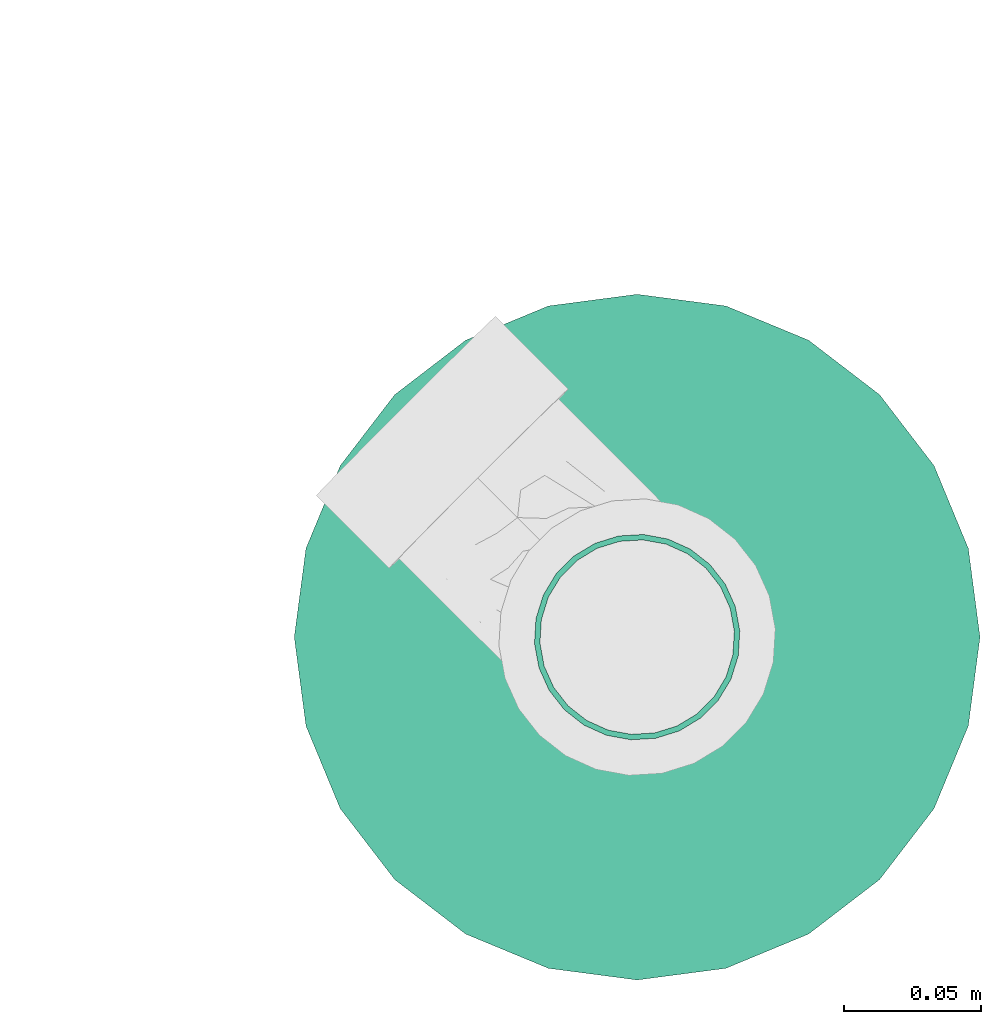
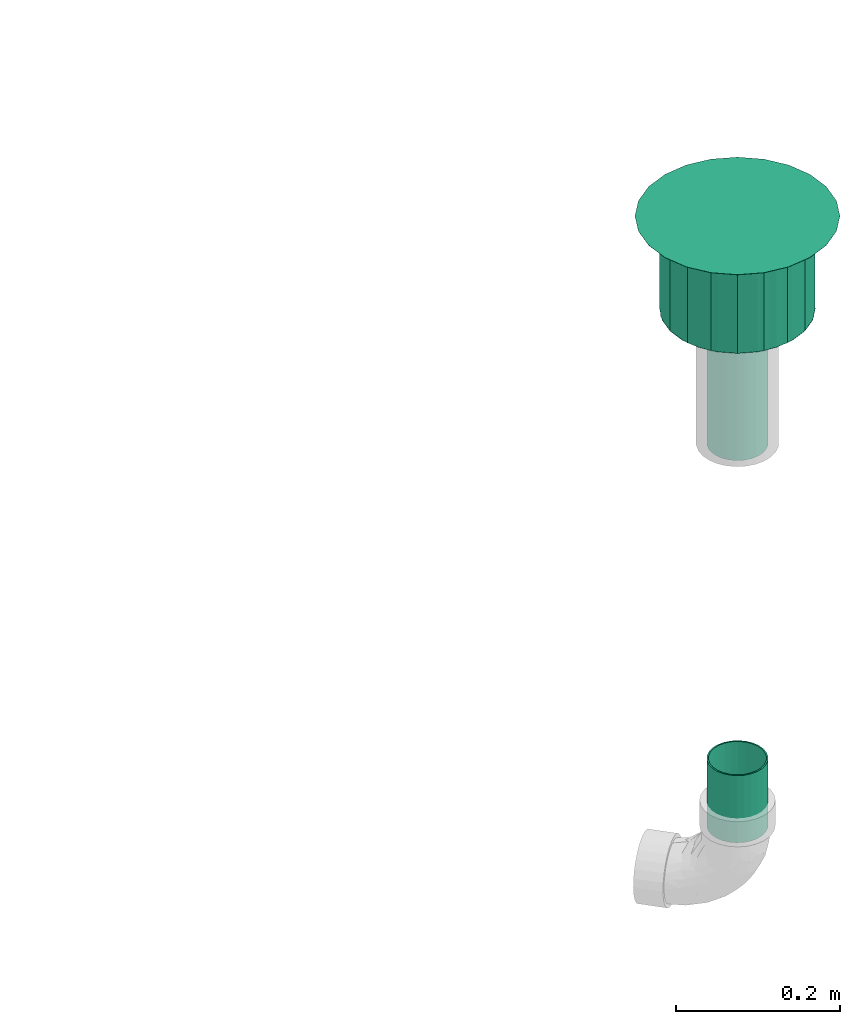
# One storey, part 63 of 108: 2 flow segments, 1 flow terminal.
"""IFC2X3 building model written with IfcOpenShell, lengths in millimetres."""

from ifc_helpers import new_model, entity, si_unit, converted_unit, derived_unit, direction, frame, origin_with_axes, origin_2d_with_axis, place, context, subcontext, project, spatial, hollow_circle, extrude, open_shell, surface_model, source, transform, mapped, type_object, element, save


model = new_model("IFC2X3")

# Units and contexts
model_context = context("Model", 3, precision=0.01, world=frame((0.0, 4.29681676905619e-09, 0.0)), true_north=direction((4.01073788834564e-13, 1.0)))
plan_context = context("Plan", 3, precision=0.01, world=frame((0.0, 4.29681676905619e-09, 0.0)), true_north=direction((4.01073788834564e-13, 1.0)))
body_context = subcontext(model_context, "Body", "Model", "MODEL_VIEW")
ifc_project = project(units=[converted_unit("PLANEANGLEUNIT", "DEGREE", entity("IfcPositiveLengthMeasure", 0.0174532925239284), si_unit("PLANEANGLEUNIT", "RADIAN"), dimensions=[0, 0, 0, 0, 0, 0, 0]), si_unit("AREAUNIT", "SQUARE_METRE"), si_unit("LENGTHUNIT", "METRE", prefix="MILLI"), si_unit("MASSUNIT", "GRAM", prefix="KILO"), si_unit("POWERUNIT", "WATT"), si_unit("PRESSUREUNIT", "PASCAL", prefix="KILO"), si_unit("FORCEUNIT", "NEWTON", prefix="KILO"), si_unit("ELECTRICVOLTAGEUNIT", "VOLT"), si_unit("ELECTRICCURRENTUNIT", "AMPERE"), si_unit("THERMODYNAMICTEMPERATUREUNIT", "DEGREE_CELSIUS"), si_unit("TIMEUNIT", "SECOND"), si_unit("VOLUMEUNIT", "CUBIC_METRE"), derived_unit("LINEARVELOCITYUNIT", [(si_unit("LENGTHUNIT", "METRE"), 1), (si_unit("TIMEUNIT", "SECOND"), -1)]), derived_unit("VOLUMETRICFLOWRATEUNIT", [(si_unit("VOLUMEUNIT", "CUBIC_METRE"), 1), (si_unit("TIMEUNIT", "SECOND"), -1)]), derived_unit("THERMALTRANSMITTANCEUNIT", [(si_unit("POWERUNIT", "WATT"), 1), (si_unit("THERMODYNAMICTEMPERATUREUNIT", "KELVIN"), -1), (si_unit("AREAUNIT", "SQUARE_METRE"), -1)]), derived_unit("SOUNDPRESSUREUNIT", [(si_unit("PRESSUREUNIT", "PASCAL"), 1)])], contexts=[model_context, plan_context])

# Site, building, storey
site_placement = place(None, frame((0.0, -4.29681676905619e-09, 0.0), z_axis=(0.0, 0.0, 1.0), x_axis=(1.0, 0.0, 0.0)))
site = spatial("IfcSite", under=ifc_project, at=site_placement, CompositionType="ELEMENT")
building_placement = place(site_placement, frame((0.0, 4.29681676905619e-09, 0.0), z_axis=(0.0, 0.0, 1.0), x_axis=(1.0, 0.0, 0.0)))
building = spatial("IfcBuilding", under=site, at=building_placement, Name="mc-building", CompositionType="ELEMENT")
storey_placement = place(building_placement, frame((0.0, 0.0, 210200.0), z_axis=(0.0, 0.0, 1.0), x_axis=(1.0, 0.0, 0.0)))
storey = spatial("IfcBuildingStorey", under=building, at=storey_placement, Name="Nivå F - 0,7 m", CompositionType="ELEMENT", Elevation=210200.0)

# Flow segments
pipe_segment_type = type_object("IfcPipeSegmentType", Name="MA", PredefinedType="RIGIDSEGMENT")
shared_shape_1 = source(origin_with_axes(), body_context, "Body", "SweptSolid", [
    extrude(hollow_circle(Radius=37.5, WallThickness=2.0, at=origin_2d_with_axis()), frame((0.0, 0.0, 0.0), z_axis=(1.0, 0.0, 0.0), x_axis=(0.0, 1.0, 0.0)), (0.0, 0.0, 1.0), 100.0),
])
flow_segment_1_placement = place(storey_placement, frame((348065.41099, 459653.24188, -797.06078), z_axis=(0.707106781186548, -0.707106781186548, 0.0), x_axis=(0.0, 0.0, -1.0)))
element("IfcFlowSegment", 1, at=flow_segment_1_placement, inside=storey, type_object=pipe_segment_type, Name="MA", context=body_context, shape_type="MappedRepresentation", body=[
    mapped(shared_shape_1, transform((0.0, 0.0, 0.0), scale=1.0)),
])
shared_shape_2 = source(origin_with_axes(), body_context, "Body", "SweptSolid", [
    extrude(hollow_circle(Radius=37.5, WallThickness=2.0, at=origin_2d_with_axis()), frame((0.0, 0.0, 0.0), z_axis=(1.0, 0.0, 0.0), x_axis=(0.0, 1.0, 0.0)), (0.0, 0.0, 1.0), 200.0),
])
flow_segment_2_placement = place(storey_placement, frame((348065.41099, 459653.24188, -128.0), z_axis=(0.707106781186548, -0.707106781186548, 0.0), x_axis=(0.0, 0.0, -1.0)))
element("IfcFlowSegment", 2, at=flow_segment_2_placement, inside=storey, type_object=pipe_segment_type, Name="MA", context=body_context, shape_type="MappedRepresentation", body=[
    mapped(shared_shape_2, transform((0.0, 0.0, 0.0), scale=1.0)),
])

# Flow terminal
waste_terminal_type = type_object("IfcWasteTerminalType", Name="B21", PredefinedType="NOTDEFINED")
shared_shape_3 = source(origin_with_axes(), body_context, "Body", "SurfaceModel", [
    surface_model("IfcShellBasedSurfaceModel", [(24.58781, -91.76295, 0.1), (47.5, -82.27241, 0.1), (67.17514, -67.17514, 0.1), (-91.76295, -24.58781, 0.1), (82.27241, -47.5, 0.1), (91.76295, -24.58781, 0.1), (95.0, 0.0, 0.1), (0.0, -95.0, 0.1), (-47.5, -82.27241, 0.1), (-24.58781, -91.76295, 0.1), (-67.17514, -67.17514, 0.1), (-82.27241, -47.5, 0.1), (-91.76295, 24.58781, 0.1), (91.76295, 24.58781, 0.1), (82.27241, 47.5, 0.1), (67.17514, 67.17514, 0.1), (47.5, 82.27241, 0.1), (24.58781, 91.76295, 0.1), (0.0, 95.0, 0.1), (-67.17514, 67.17514, 0.1), (-82.27241, 47.5, 0.1), (-95.0, 0.0, 0.1), (-24.58781, 91.76295, 0.1), (-47.5, 82.27241, 0.1), (0.0, 95.0, -0.1), (24.58781, 91.76295, -0.1), (47.5, 82.27241, -0.1), (67.17514, 67.17514, -0.1), (82.27241, 47.5, -0.1), (91.76295, 24.58781, -0.1), (-24.58781, 91.76295, -0.1), (-67.17514, 67.17514, -0.1), (-47.5, 82.27241, -0.1), (-91.76295, 24.58781, -0.1), (-82.27241, 47.5, -0.1), (95.0, 0.0, -0.1), (67.17514, -67.17514, -0.1), (-95.0, 0.0, -0.1), (91.76295, -24.58781, -0.1), (82.27241, -47.5, -0.1), (47.5, -82.27241, -0.1), (24.58781, -91.76295, -0.1), (0.0, -95.0, -0.1), (-82.27241, -47.5, -0.1), (-91.76295, -24.58781, -0.1), (-67.17514, -67.17514, -0.1), (-47.5, -82.27241, -0.1), (-24.58781, -91.76295, -0.1), (-62.5, 108.25318, 0.1), (-88.38835, 88.38835, 0.1), (-32.35238, 120.74073, 0.1), (0.0, 125.0, 0.1), (-108.25318, 62.5, 0.1), (-120.74073, 32.35238, 0.1), (-125.0, 0.0, 0.1), (32.35238, 120.74073, 0.1), (88.38835, 88.38835, 0.1), (62.5, 108.25318, 0.1), (108.25318, 62.5, 0.1), (120.74073, 32.35238, 0.1), (125.0, 0.0, 0.1), (-120.74073, -32.35238, 0.1), (-108.25318, -62.5, 0.1), (-88.38835, -88.38835, 0.1), (-62.5, -108.25318, 0.1), (-32.35238, -120.74073, 0.1), (0.0, -125.0, 0.1), (108.25318, -62.5, 0.1), (88.38835, -88.38835, 0.1), (120.74073, -32.35238, 0.1), (32.35238, -120.74073, 0.1), (62.5, -108.25318, 0.1), (-62.5, -108.25318, -0.1), (-88.38835, -88.38835, -0.1), (-32.35238, -120.74073, -0.1), (0.0, -125.0, -0.1), (-108.25318, -62.5, -0.1), (-120.74073, -32.35238, -0.1), (-125.0, 0.0, -0.1), (32.35238, -120.74073, -0.1), (88.38835, -88.38835, -0.1), (62.5, -108.25318, -0.1), (108.25318, -62.5, -0.1), (120.74073, -32.35238, -0.1), (125.0, 0.0, -0.1), (-120.74073, 32.35238, -0.1), (-108.25318, 62.5, -0.1), (-88.38835, 88.38835, -0.1), (-62.5, 108.25318, -0.1), (-32.35238, 120.74073, -0.1), (0.0, 125.0, -0.1), (108.25318, 62.5, -0.1), (88.38835, 88.38835, -0.1), (120.74073, 32.35238, -0.1), (32.35238, 120.74073, -0.1), (62.5, 108.25318, -0.1), (24.58781, -91.76295, -137.9), (47.5, -82.27241, -137.9), (67.17514, -67.17514, -137.9), (-91.76295, -24.58781, -137.9), (82.27241, -47.5, -137.9), (91.76295, -24.58781, -137.9), (95.0, 0.0, -137.9), (0.0, -95.0, -137.9), (-47.5, -82.27241, -137.9), (-24.58781, -91.76295, -137.9), (-67.17514, -67.17514, -137.9), (-82.27241, -47.5, -137.9), (-91.76295, 24.58781, -137.9), (91.76295, 24.58781, -137.9), (82.27241, 47.5, -137.9), (67.17514, 67.17514, -137.9), (47.5, 82.27241, -137.9), (24.58781, 91.76295, -137.9), (0.0, 95.0, -137.9), (-67.17514, 67.17514, -137.9), (-82.27241, 47.5, -137.9), (-95.0, 0.0, -137.9), (-24.58781, 91.76295, -137.9), (-47.5, 82.27241, -137.9), (0.0, 95.0, -138.1), (24.58781, 91.76295, -138.1), (47.5, 82.27241, -138.1), (67.17514, 67.17514, -138.1), (82.27241, 47.5, -138.1), (91.76295, 24.58781, -138.1), (-24.58781, 91.76295, -138.1), (-67.17514, 67.17514, -138.1), (-47.5, 82.27241, -138.1), (-91.76295, 24.58781, -138.1), (-82.27241, 47.5, -138.1), (95.0, 0.0, -138.1), (67.17514, -67.17514, -138.1), (-95.0, 0.0, -138.1), (91.76295, -24.58781, -138.1), (82.27241, -47.5, -138.1), (47.5, -82.27241, -138.1), (24.58781, -91.76295, -138.1), (0.0, -95.0, -138.1), (-82.27241, -47.5, -138.1), (-91.76295, -24.58781, -138.1), (-67.17514, -67.17514, -138.1), (-47.5, -82.27241, -138.1), (-24.58781, -91.76295, -138.1), (-85.74428, -38.60004, 0.0), (-90.0094, -28.30311, 0.0), (-89.2708, -32.49191, 0.0), (-43.22826, 83.8272, 0.0), (-47.5, 82.27241, 0.0), (-47.4, 82.0992, 0.0), (-50.98236, 79.35037, 0.0), (-94.21061, 4.47683, 0.0), (-95.0, 0.0, 0.0), (-94.8, 0.0, 0.0), (-82.0992, -47.4, 0.0), (-76.30075, -54.9567, 0.0), (43.22826, 83.8272, 0.0), (47.4, 82.0992, 0.0), (47.5, 82.27241, 0.0), (50.98236, 79.35037, 0.0), (-20.49348, 92.10198, 0.0), (-9.44352, 93.55673, 0.0), (-16.49658, 93.55673, 0.0), (72.77422, 61.06482, 0.0), (69.51591, 63.79887, 0.0), (76.30075, 54.9567, 0.0), (82.0992, -47.4, 0.0), (85.74428, -38.60004, 0.0), (76.30075, -54.9567, 0.0), (94.21061, 4.47683, 0.0), (94.8, 0.0, 0.0), (95.0, 0.0, 0.0), (91.56976, -24.53605, 0.0), (94.21061, -4.47683, 0.0), (90.0094, -28.30311, 0.0), (-91.56976, -24.53605, 0.0), (-94.21061, -4.47683, 0.0), (-24.53605, -91.56976, 0.0), (-20.49348, -92.10198, 0.0), (-43.22826, -83.8272, 0.0), (-47.5, -82.27241, 0.0), (-47.4, -82.0992, 0.0), (-50.98236, -79.35037, 0.0), (9.44352, -93.55673, 0.0), (16.49658, -93.55673, 0.0), (20.49348, -92.10198, 0.0), (0.0, -94.8, 0.0), (-9.44352, -93.55673, 0.0), (-16.49658, -93.55673, 0.0), (-90.0094, 28.30311, 0.0), (-85.74428, 38.60004, 0.0), (-89.2708, 32.49191, 0.0), (67.03372, -67.03372, 0.0), (69.51591, -63.79887, 0.0), (50.98236, -79.35037, 0.0), (47.4, -82.0992, 0.0), (47.5, -82.27241, 0.0), (43.22826, -83.8272, 0.0), (24.53605, -91.56976, 0.0), (89.2708, -32.49191, 0.0), (-72.77422, -61.06482, 0.0), (-69.51591, -63.79887, 0.0), (-67.03372, -67.03372, 0.0), (72.77422, -61.06482, 0.0), (-91.56976, 24.53605, 0.0), (-82.0992, 47.4, 0.0), (-76.30075, 54.9567, 0.0), (-69.51591, 63.79887, 0.0), (-72.77422, 61.06482, 0.0), (-67.03372, 67.03372, 0.0), (-24.53605, 91.56976, 0.0), (0.0, 94.8, 0.0), (9.44352, 93.55673, 0.0), (20.49348, 92.10198, 0.0), (16.49658, 93.55673, 0.0), (24.53605, 91.56976, 0.0), (67.03372, 67.03372, 0.0), (82.0992, 47.4, 0.0), (85.74428, 38.60004, 0.0), (90.0094, 28.30311, 0.0), (89.2708, 32.49191, 0.0), (91.56976, 24.53605, 0.0), (85.74428, -38.60004, -138.0), (90.0094, -28.30311, -138.0), (89.2708, -32.49191, -138.0), (43.22826, 83.8272, -138.0), (47.5, 82.27241, -138.0), (47.4, 82.0992, -138.0), (89.2708, 32.49191, -138.0), (90.0094, 28.30311, -138.0), (85.74428, 38.60004, -138.0), (94.21061, 4.47683, -138.0), (95.0, 0.0, -138.0), (94.8, 0.0, -138.0), (50.98236, 79.35037, -138.0), (82.0992, -47.4, -138.0), (76.30075, -54.9567, -138.0), (-43.22826, 83.8272, -138.0), (-47.4, 82.0992, -138.0), (-47.5, 82.27241, -138.0), (-50.98236, 79.35037, -138.0), (9.44352, 93.55673, -138.0), (16.49658, 93.55673, -138.0), (20.49348, 92.10198, -138.0), (-69.51591, 63.79887, -138.0), (-76.30075, 54.9567, -138.0), (-72.77422, 61.06482, -138.0), (-82.0992, -47.4, -138.0), (-85.74428, -38.60004, -138.0), (-76.30075, -54.9567, -138.0), (-94.8, 0.0, -138.0), (-95.0, 0.0, -138.0), (-94.21061, 4.47683, -138.0), (-91.56976, -24.53605, -138.0), (-94.21061, -4.47683, -138.0), (-90.0094, -28.30311, -138.0), (91.56976, -24.53605, -138.0), (94.21061, -4.47683, -138.0), (-20.49348, -92.10198, -138.0), (-9.44352, -93.55673, -138.0), (-16.49658, -93.55673, -138.0), (24.53605, -91.56976, -138.0), (20.49348, -92.10198, -138.0), (43.22826, -83.8272, -138.0), (47.5, -82.27241, -138.0), (47.4, -82.0992, -138.0), (50.98236, -79.35037, -138.0), (72.77422, -61.06482, -138.0), (69.51591, -63.79887, -138.0), (0.0, -94.8, -138.0), (9.44352, -93.55673, -138.0), (16.49658, -93.55673, -138.0), (-67.03372, -67.03372, -138.0), (-69.51591, -63.79887, -138.0), (-50.98236, -79.35037, -138.0), (-47.4, -82.0992, -138.0), (-47.5, -82.27241, -138.0), (-89.2708, -32.49191, -138.0), (-43.22826, -83.8272, -138.0), (-24.53605, -91.56976, -138.0), (67.03372, -67.03372, -138.0), (-72.77422, -61.06482, -138.0), (91.56976, 24.53605, -138.0), (82.0992, 47.4, -138.0), (76.30075, 54.9567, -138.0), (69.51591, 63.79887, -138.0), (72.77422, 61.06482, -138.0), (67.03372, 67.03372, -138.0), (24.53605, 91.56976, -138.0), (0.0, 94.8, -138.0), (-9.44352, 93.55673, -138.0), (-20.49348, 92.10198, -138.0), (-16.49658, 93.55673, -138.0), (-24.53605, 91.56976, -138.0), (-67.03372, 67.03372, -138.0), (-82.0992, 47.4, -138.0), (-85.74428, 38.60004, -138.0), (-90.0094, 28.30311, -138.0), (-89.2708, 32.49191, -138.0), (-91.56976, 24.53605, -138.0), (18.75, -32.47595, -138.0), (26.5165, -26.5165, -138.0), (18.65, -32.30275, -138.0), (9.65395, -36.02903, -138.0), (0.0, -37.3, -138.0), (9.70571, -36.22222, -138.0), (0.0, -37.5, -138.0), (26.37508, -26.37508, -138.0), (36.22222, -9.70571, -138.0), (37.3, 0.0, -138.0), (36.02903, -9.65395, -138.0), (37.5, 0.0, -138.0), (32.47595, -18.75, -138.0), (32.30275, -18.65, -138.0), (-9.65395, -36.02903, -138.0), (-9.70571, -36.22222, -138.0), (-18.65, -32.30275, -138.0), (-26.5165, -26.5165, -138.0), (-18.75, -32.47595, -138.0), (-26.37508, -26.37508, -138.0), (-32.30275, -18.65, -138.0), (-32.47595, -18.75, -138.0), (-36.02903, -9.65395, -138.0), (-36.22222, -9.70571, -138.0), (-37.3, 0.0, -138.0), (-37.5, 0.0, -138.0), (36.22222, 9.70571, -138.0), (36.02903, 9.65395, -138.0), (32.30275, 18.65, -138.0), (32.47595, 18.75, -138.0), (26.37508, 26.37508, -138.0), (26.5165, 26.5165, -138.0), (18.75, 32.47595, -138.0), (18.65, 32.30275, -138.0), (9.65395, 36.02903, -138.0), (9.70571, 36.22222, -138.0), (0.0, 37.3, -138.0), (0.0, 37.5, -138.0), (-32.47595, 18.75, -138.0), (-32.30275, 18.65, -138.0), (-26.5165, 26.5165, -138.0), (-26.37508, 26.37508, -138.0), (-36.22222, 9.70571, -138.0), (-36.02903, 9.65395, -138.0), (-9.65395, 36.02903, -138.0), (-9.70571, 36.22222, -138.0), (-18.65, 32.30275, -138.0), (-18.75, 32.47595, -138.0), (18.75, 32.47595, -188.0), (26.5165, 26.5165, -188.0), (18.65, 32.30275, -188.0), (9.65395, 36.02903, -188.0), (0.0, 37.3, -188.0), (9.70571, 36.22222, -188.0), (0.0, 37.5, -188.0), (26.37508, 26.37508, -188.0), (36.22222, 9.70571, -188.0), (37.3, 0.0, -188.0), (36.02903, 9.65395, -188.0), (37.5, 0.0, -188.0), (32.47595, 18.75, -188.0), (32.30275, 18.65, -188.0), (-9.65395, 36.02903, -188.0), (-9.70571, 36.22222, -188.0), (-18.65, 32.30275, -188.0), (-26.5165, 26.5165, -188.0), (-18.75, 32.47595, -188.0), (-26.37508, 26.37508, -188.0), (-32.30275, 18.65, -188.0), (-32.47595, 18.75, -188.0), (-36.02903, 9.65395, -188.0), (-36.22222, 9.70571, -188.0), (-37.3, 0.0, -188.0), (-37.5, 0.0, -188.0), (36.22222, -9.70571, -188.0), (36.02903, -9.65395, -188.0), (32.30275, -18.65, -188.0), (32.47595, -18.75, -188.0), (26.37508, -26.37508, -188.0), (26.5165, -26.5165, -188.0), (18.75, -32.47595, -188.0), (18.65, -32.30275, -188.0), (9.65395, -36.02903, -188.0), (9.70571, -36.22222, -188.0), (0.0, -37.3, -188.0), (0.0, -37.5, -188.0), (-32.47595, -18.75, -188.0), (-32.30275, -18.65, -188.0), (-26.5165, -26.5165, -188.0), (-26.37508, -26.37508, -188.0), (-36.22222, -9.70571, -188.0), (-36.02903, -9.65395, -188.0), (-9.65395, -36.02903, -188.0), (-9.70571, -36.22222, -188.0), (-18.65, -32.30275, -188.0), (-18.75, -32.47595, -188.0)], [open_shell([[[0, 1, 2]], [[3, 0, 2]], [[4, 5, 6]], [[4, 6, 2]], [[3, 2, 6]], [[7, 8, 9]], [[8, 7, 10]], [[10, 3, 11]], [[10, 7, 0]], [[0, 3, 10]], [[6, 12, 3]], [[13, 14, 15]], [[13, 15, 16]], [[16, 17, 18]], [[13, 16, 12]], [[12, 16, 18]], [[12, 19, 20]], [[21, 3, 12]], [[19, 22, 23]], [[22, 19, 12]], [[18, 22, 12]], [[12, 6, 13]], [[24, 25, 26]], [[24, 26, 27]], [[27, 28, 29]], [[27, 29, 24]], [[24, 29, 30]], [[30, 31, 32]], [[30, 29, 31]], [[31, 33, 34]], [[31, 35, 33]], [[33, 36, 37]], [[35, 31, 29]], [[35, 38, 39]], [[35, 39, 36]], [[36, 40, 41]], [[41, 37, 36]], [[41, 42, 37]], [[37, 43, 44]], [[45, 43, 37]], [[46, 42, 47]], [[42, 46, 45]], [[42, 45, 37]], [[36, 33, 35]], [[44, 3, 37]], [[43, 11, 44]], [[8, 45, 46]], [[43, 45, 10]], [[9, 46, 47]], [[44, 11, 3]], [[3, 21, 37]], [[9, 8, 46]], [[10, 45, 8]], [[10, 11, 43]], [[7, 9, 47]], [[47, 42, 7]], [[41, 0, 42]], [[40, 1, 41]], [[4, 36, 39]], [[40, 36, 2]], [[5, 39, 38]], [[40, 2, 1]], [[1, 0, 41]], [[6, 5, 38]], [[4, 39, 5]], [[4, 2, 36]], [[35, 6, 38]], [[42, 0, 7]], [[29, 13, 35]], [[28, 14, 29]], [[16, 27, 26]], [[28, 27, 15]], [[17, 26, 25]], [[29, 14, 13]], [[13, 6, 35]], [[17, 16, 26]], [[15, 27, 16]], [[15, 14, 28]], [[18, 17, 25]], [[25, 24, 18]], [[30, 22, 24]], [[32, 23, 30]], [[32, 31, 19]], [[31, 34, 20]], [[32, 19, 23]], [[23, 22, 30]], [[33, 12, 20]], [[33, 37, 12]], [[37, 21, 12]], [[20, 19, 31]], [[20, 34, 33]], [[24, 22, 18]], [[48, 49, 23]], [[23, 49, 19]], [[48, 23, 22]], [[50, 22, 18]], [[22, 50, 48]], [[50, 18, 51]], [[12, 52, 53]], [[21, 53, 54]], [[12, 53, 21]], [[20, 19, 52]], [[12, 20, 52]], [[52, 19, 49]], [[51, 17, 55]], [[17, 51, 18]], [[55, 17, 16]], [[56, 57, 15]], [[16, 57, 55]], [[15, 57, 16]], [[14, 13, 58]], [[14, 58, 56]], [[13, 59, 58]], [[59, 13, 6]], [[59, 6, 60]], [[14, 56, 15]], [[3, 54, 61]], [[11, 61, 62]], [[11, 3, 61]], [[10, 11, 62]], [[62, 63, 10]], [[8, 63, 64]], [[63, 8, 10]], [[8, 64, 9]], [[9, 65, 7]], [[65, 9, 64]], [[7, 65, 66]], [[67, 4, 68]], [[5, 4, 69]], [[5, 69, 60]], [[69, 4, 67]], [[4, 2, 68]], [[60, 6, 5]], [[0, 66, 70]], [[66, 0, 7]], [[0, 70, 1]], [[71, 68, 2]], [[71, 1, 70]], [[71, 2, 1]], [[3, 21, 54]], [[72, 73, 46]], [[46, 73, 45]], [[72, 46, 47]], [[74, 47, 42]], [[47, 74, 72]], [[74, 42, 75]], [[44, 76, 77]], [[37, 77, 78]], [[44, 77, 37]], [[43, 45, 76]], [[44, 43, 76]], [[76, 45, 73]], [[75, 41, 79]], [[41, 75, 42]], [[79, 41, 40]], [[80, 81, 36]], [[40, 81, 79]], [[36, 81, 40]], [[39, 38, 82]], [[39, 82, 80]], [[38, 83, 82]], [[83, 38, 35]], [[83, 35, 84]], [[39, 80, 36]], [[33, 78, 85]], [[34, 85, 86]], [[34, 33, 85]], [[31, 34, 86]], [[86, 87, 31]], [[32, 87, 88]], [[87, 32, 31]], [[32, 88, 30]], [[30, 89, 24]], [[89, 30, 88]], [[24, 89, 90]], [[91, 28, 92]], [[29, 28, 93]], [[29, 93, 84]], [[93, 28, 91]], [[28, 27, 92]], [[84, 35, 29]], [[25, 90, 94]], [[90, 25, 24]], [[25, 94, 26]], [[95, 92, 27]], [[95, 26, 94]], [[95, 27, 26]], [[33, 37, 78]], [[21, 37, 12]], [[12, 33, 20]], [[23, 19, 31]], [[34, 19, 20]], [[22, 23, 32]], [[33, 34, 20]], [[12, 37, 33]], [[24, 18, 30]], [[22, 32, 30]], [[32, 23, 31]], [[19, 34, 31]], [[22, 30, 18]], [[17, 25, 16]], [[16, 26, 15]], [[13, 14, 28]], [[27, 14, 15]], [[6, 13, 29]], [[25, 26, 16]], [[17, 24, 25]], [[13, 28, 29]], [[28, 14, 27]], [[15, 26, 27]], [[6, 29, 35]], [[18, 24, 17]], [[6, 35, 5]], [[5, 38, 4]], [[1, 2, 36]], [[39, 2, 4]], [[0, 1, 40]], [[38, 39, 4]], [[5, 35, 38]], [[42, 7, 41]], [[0, 40, 41]], [[40, 1, 36]], [[2, 39, 36]], [[0, 41, 7]], [[9, 47, 8]], [[8, 46, 10]], [[37, 21, 3]], [[44, 3, 11]], [[10, 45, 11]], [[47, 46, 8]], [[9, 42, 47]], [[11, 45, 43]], [[37, 3, 44]], [[10, 46, 45]], [[43, 44, 11]], [[7, 42, 9]], [[77, 61, 78]], [[76, 62, 77]], [[64, 73, 72]], [[76, 73, 63]], [[65, 72, 74]], [[77, 62, 61]], [[61, 54, 78]], [[65, 64, 72]], [[63, 73, 64]], [[63, 62, 76]], [[66, 65, 74]], [[74, 75, 66]], [[79, 70, 75]], [[81, 71, 79]], [[67, 80, 82]], [[81, 80, 68]], [[69, 82, 83]], [[81, 68, 71]], [[71, 70, 79]], [[60, 69, 83]], [[67, 82, 69]], [[67, 68, 80]], [[84, 60, 83]], [[75, 70, 66]], [[93, 59, 84]], [[91, 58, 93]], [[57, 92, 95]], [[91, 92, 56]], [[55, 95, 94]], [[93, 58, 59]], [[59, 60, 84]], [[55, 57, 95]], [[56, 92, 57]], [[56, 58, 91]], [[51, 55, 94]], [[94, 90, 51]], [[50, 90, 89]], [[88, 48, 89]], [[52, 86, 85]], [[53, 85, 78]], [[88, 49, 48]], [[48, 50, 89]], [[87, 52, 49]], [[87, 86, 52]], [[52, 85, 53]], [[78, 54, 53]], [[87, 49, 88]], [[90, 50, 51]], [[96, 97, 98]], [[99, 96, 98]], [[100, 101, 102]], [[100, 102, 98]], [[99, 98, 102]], [[103, 104, 105]], [[104, 103, 106]], [[106, 99, 107]], [[106, 103, 96]], [[96, 99, 106]], [[102, 108, 99]], [[109, 110, 111]], [[109, 111, 112]], [[112, 113, 114]], [[109, 112, 108]], [[108, 112, 114]], [[108, 115, 116]], [[117, 99, 108]], [[115, 118, 119]], [[118, 115, 108]], [[114, 118, 108]], [[108, 102, 109]], [[120, 121, 122]], [[120, 122, 123]], [[123, 124, 125]], [[123, 125, 120]], [[120, 125, 126]], [[126, 127, 128]], [[126, 125, 127]], [[127, 129, 130]], [[127, 131, 129]], [[129, 132, 133]], [[131, 127, 125]], [[131, 134, 135]], [[131, 135, 132]], [[132, 136, 137]], [[137, 133, 132]], [[137, 138, 133]], [[133, 139, 140]], [[141, 139, 133]], [[142, 138, 143]], [[138, 142, 141]], [[138, 141, 133]], [[132, 129, 131]], [[140, 99, 133]], [[139, 107, 140]], [[104, 141, 142]], [[139, 141, 106]], [[105, 142, 143]], [[140, 107, 99]], [[99, 117, 133]], [[105, 104, 142]], [[106, 141, 104]], [[106, 107, 139]], [[103, 105, 143]], [[143, 138, 103]], [[137, 96, 138]], [[136, 97, 137]], [[100, 132, 135]], [[136, 132, 98]], [[101, 135, 134]], [[136, 98, 97]], [[97, 96, 137]], [[102, 101, 134]], [[100, 135, 101]], [[100, 98, 132]], [[131, 102, 134]], [[138, 96, 103]], [[125, 109, 131]], [[124, 110, 125]], [[112, 123, 122]], [[124, 123, 111]], [[113, 122, 121]], [[125, 110, 109]], [[109, 102, 131]], [[113, 112, 122]], [[111, 123, 112]], [[111, 110, 124]], [[114, 113, 121]], [[121, 120, 114]], [[126, 118, 120]], [[128, 119, 126]], [[128, 127, 115]], [[127, 130, 116]], [[128, 115, 119]], [[119, 118, 126]], [[129, 108, 116]], [[129, 133, 108]], [[133, 117, 108]], [[116, 115, 127]], [[116, 130, 129]], [[120, 118, 114]], [[144, 145, 146]], [[147, 148, 149]], [[149, 148, 150]], [[151, 152, 153]], [[154, 155, 144]], [[156, 157, 158]], [[157, 159, 158]], [[160, 161, 162]], [[163, 164, 165]], [[166, 167, 168]], [[169, 170, 171]], [[172, 173, 174]], [[175, 145, 176]], [[153, 152, 176]], [[177, 178, 179]], [[180, 181, 182]], [[183, 184, 185]], [[186, 183, 187]], [[187, 178, 188]], [[180, 179, 181]], [[189, 190, 191]], [[192, 193, 194]], [[171, 170, 173]], [[194, 195, 196]], [[195, 197, 196]], [[198, 197, 185]], [[199, 174, 167]], [[155, 200, 201]], [[202, 182, 201]], [[168, 193, 203]], [[204, 151, 189]], [[205, 190, 206]], [[206, 207, 208]], [[209, 207, 150]], [[210, 147, 160]], [[211, 161, 212]], [[212, 213, 214]], [[215, 213, 156]], [[216, 159, 164]], [[217, 165, 218]], [[218, 219, 220]], [[221, 219, 169]], [[222, 223, 224]], [[225, 226, 227]], [[228, 229, 230]], [[231, 232, 233]], [[226, 234, 227]], [[235, 236, 222]], [[237, 238, 239]], [[238, 240, 239]], [[241, 242, 243]], [[244, 245, 246]], [[247, 248, 249]], [[250, 251, 252]], [[253, 254, 255]], [[256, 223, 257]], [[257, 233, 232]], [[258, 259, 260]], [[261, 262, 263]], [[264, 265, 266]], [[236, 267, 268]], [[269, 259, 270]], [[263, 265, 264]], [[270, 262, 271]], [[272, 273, 274]], [[251, 250, 254]], [[274, 275, 276]], [[248, 277, 255]], [[275, 278, 276]], [[279, 278, 258]], [[280, 266, 268]], [[249, 273, 281]], [[282, 231, 229]], [[283, 230, 284]], [[284, 285, 286]], [[287, 285, 234]], [[288, 225, 243]], [[289, 241, 290]], [[290, 291, 292]], [[293, 291, 237]], [[294, 240, 244]], [[295, 245, 296]], [[296, 297, 298]], [[299, 297, 252]], [[152, 251, 277]], [[200, 281, 276]], [[277, 281, 146]], [[180, 276, 260]], [[152, 277, 146]], [[200, 146, 281]], [[276, 180, 200]], [[260, 188, 180]], [[260, 271, 188]], [[184, 271, 264]], [[203, 267, 224]], [[264, 267, 196]], [[199, 224, 232]], [[184, 264, 196]], [[203, 196, 267]], [[224, 199, 203]], [[232, 171, 199]], [[271, 184, 188]], [[171, 232, 228]], [[163, 286, 226]], [[228, 286, 220]], [[158, 226, 242]], [[171, 228, 220]], [[163, 220, 286]], [[226, 158, 163]], [[242, 214, 158]], [[242, 292, 214]], [[162, 292, 239]], [[208, 246, 298]], [[239, 246, 148]], [[191, 298, 251]], [[162, 239, 148]], [[208, 148, 246]], [[298, 191, 208]], [[251, 152, 191]], [[292, 162, 214]], [[247, 253, 175]], [[247, 154, 272]], [[279, 275, 181]], [[202, 275, 272]], [[269, 279, 177]], [[250, 153, 253]], [[153, 175, 253]], [[175, 154, 247]], [[154, 202, 272]], [[275, 202, 181]], [[181, 177, 279]], [[177, 186, 269]], [[265, 261, 198]], [[265, 195, 280]], [[256, 235, 166]], [[192, 235, 280]], [[233, 256, 172]], [[186, 198, 261]], [[198, 195, 265]], [[195, 192, 280]], [[192, 166, 235]], [[256, 166, 172]], [[172, 170, 233]], [[269, 186, 261]], [[283, 282, 221]], [[283, 217, 287]], [[288, 227, 157]], [[216, 227, 287]], [[289, 288, 215]], [[233, 170, 282]], [[170, 221, 282]], [[221, 217, 283]], [[217, 216, 287]], [[227, 216, 157]], [[157, 215, 288]], [[215, 211, 289]], [[238, 293, 210]], [[238, 149, 294]], [[299, 295, 205]], [[209, 295, 294]], [[250, 299, 204]], [[211, 210, 293]], [[210, 149, 238]], [[149, 209, 294]], [[209, 205, 295]], [[299, 205, 204]], [[204, 153, 250]], [[289, 211, 293]], [[300, 301, 302]], [[300, 302, 303]], [[304, 305, 303]], [[305, 304, 306]], [[303, 305, 300]], [[302, 301, 307]], [[308, 309, 310]], [[309, 308, 311]], [[308, 310, 312]], [[307, 312, 313]], [[312, 307, 301]], [[313, 312, 310]], [[306, 314, 315]], [[315, 314, 316]], [[317, 318, 319]], [[316, 318, 315]], [[316, 319, 318]], [[306, 304, 314]], [[320, 321, 317]], [[321, 320, 322]], [[320, 317, 319]], [[323, 322, 324]], [[322, 323, 321]], [[323, 324, 325]], [[311, 326, 327]], [[327, 326, 328]], [[328, 329, 330]], [[329, 328, 326]], [[330, 329, 331]], [[331, 332, 333]], [[333, 332, 334]], [[334, 335, 336]], [[335, 334, 332]], [[336, 335, 337]], [[333, 330, 331]], [[338, 339, 340]], [[340, 339, 341]], [[339, 338, 342]], [[325, 343, 342]], [[342, 343, 339]], [[325, 324, 343]], [[344, 337, 345]], [[344, 345, 346]], [[341, 347, 340]], [[341, 346, 347]], [[347, 346, 345]], [[336, 337, 344]], [[327, 309, 311]], [[348, 349, 350]], [[348, 350, 351]], [[352, 353, 351]], [[353, 352, 354]], [[351, 353, 348]], [[350, 349, 355]], [[356, 357, 358]], [[357, 356, 359]], [[356, 358, 360]], [[355, 360, 361]], [[360, 355, 349]], [[361, 360, 358]], [[354, 362, 363]], [[363, 362, 364]], [[365, 366, 367]], [[364, 366, 363]], [[364, 367, 366]], [[354, 352, 362]], [[368, 369, 365]], [[369, 368, 370]], [[368, 365, 367]], [[371, 370, 372]], [[370, 371, 369]], [[371, 372, 373]], [[359, 374, 375]], [[375, 374, 376]], [[376, 377, 378]], [[377, 376, 374]], [[378, 377, 379]], [[379, 380, 381]], [[381, 380, 382]], [[382, 383, 384]], [[383, 382, 380]], [[384, 383, 385]], [[381, 378, 379]], [[386, 387, 388]], [[388, 387, 389]], [[387, 386, 390]], [[373, 391, 390]], [[390, 391, 387]], [[373, 372, 391]], [[392, 385, 393]], [[392, 393, 394]], [[389, 395, 388]], [[389, 394, 395]], [[395, 394, 393]], [[384, 385, 392]], [[375, 357, 359]], [[321, 386, 388]], [[318, 395, 393]], [[388, 395, 317]], [[315, 393, 385]], [[373, 323, 325]], [[323, 373, 390]], [[323, 390, 321]], [[390, 386, 321]], [[388, 317, 321]], [[318, 317, 395]], [[393, 315, 318]], [[385, 306, 315]], [[305, 383, 380]], [[379, 300, 380]], [[312, 377, 374]], [[379, 377, 301]], [[308, 374, 359]], [[383, 305, 306]], [[380, 300, 305]], [[379, 301, 300]], [[377, 312, 301]], [[308, 312, 374]], [[359, 311, 308]], [[383, 306, 385]], [[356, 326, 359]], [[360, 329, 356]], [[353, 354, 335]], [[360, 349, 331]], [[356, 329, 326]], [[326, 311, 359]], [[332, 348, 335]], [[332, 331, 349]], [[348, 353, 335]], [[331, 329, 360]], [[349, 348, 332]], [[354, 337, 335]], [[345, 363, 366]], [[365, 347, 366]], [[338, 369, 371]], [[365, 369, 340]], [[342, 371, 373]], [[363, 345, 337]], [[366, 347, 345]], [[365, 340, 347]], [[369, 338, 340]], [[342, 338, 371]], [[373, 325, 342]], [[363, 337, 354]], [[389, 387, 320]], [[392, 394, 316]], [[319, 394, 389]], [[384, 392, 314]], [[324, 322, 372]], [[391, 372, 322]], [[320, 391, 322]], [[320, 387, 391]], [[320, 319, 389]], [[394, 319, 316]], [[316, 314, 392]], [[314, 304, 384]], [[381, 382, 303]], [[381, 302, 378]], [[375, 376, 313]], [[307, 376, 378]], [[357, 375, 310]], [[304, 303, 382]], [[303, 302, 381]], [[302, 307, 378]], [[307, 313, 376]], [[375, 313, 310]], [[310, 309, 357]], [[384, 304, 382]], [[357, 327, 358]], [[358, 328, 361]], [[334, 352, 351]], [[330, 355, 361]], [[327, 328, 358]], [[357, 309, 327]], [[334, 350, 333]], [[355, 330, 333]], [[334, 351, 350]], [[361, 328, 330]], [[333, 350, 355]], [[334, 336, 352]], [[364, 362, 344]], [[364, 346, 367]], [[370, 368, 339]], [[341, 368, 367]], [[372, 370, 343]], [[336, 344, 362]], [[344, 346, 364]], [[346, 341, 367]], [[341, 339, 368]], [[370, 339, 343]], [[343, 324, 372]], [[352, 336, 362]]])]),
])
flow_terminal_placement = place(storey_placement, frame((348065.41099, 459653.24188, 10.0), z_axis=(0.0, 0.0, 1.0), x_axis=(1.0, 0.0, 0.0)))
element("IfcFlowTerminal", 3, at=flow_terminal_placement, inside=storey, type_object=waste_terminal_type, Name="B21", context=body_context, shape_type="MappedRepresentation", body=[
    mapped(shared_shape_3, transform((0.0, 0.0, 0.0), scale=1.0)),
])

save(model, "model.ifc")
